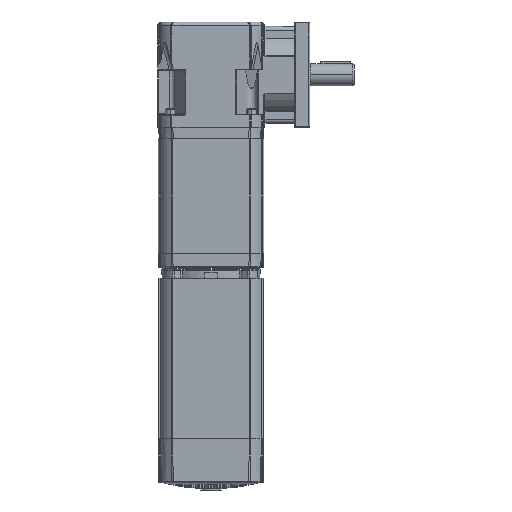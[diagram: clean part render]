
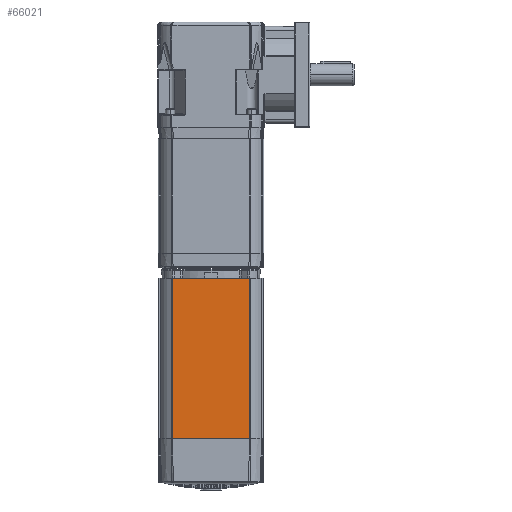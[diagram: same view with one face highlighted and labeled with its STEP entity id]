
A CAD part, front view. The second image highlights one B-rep face of the part: STEP entity #66021.
In plain terms, the highlighted planar face has unit normal (0, -1, 0).
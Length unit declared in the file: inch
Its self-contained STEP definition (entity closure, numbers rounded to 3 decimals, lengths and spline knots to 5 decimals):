
#1128 = VERTEX_POINT ( 'NONE', #55424 ) ;
#3404 = AXIS2_PLACEMENT_3D ( 'NONE', #76429, #42101, #5728 ) ;
#5047 = CARTESIAN_POINT ( 'NONE',  ( -1.305, -1.7765, -11.025 ) ) ;
#5728 = DIRECTION ( 'NONE',  ( 0., 0., -1. ) ) ;
#9107 = CARTESIAN_POINT ( 'NONE',  ( -1.305, -1.7765, -10.084 ) ) ;
#9770 = DIRECTION ( 'NONE',  ( -1., 0., 0. ) ) ;
#10675 = EDGE_CURVE ( 'NONE', #41895, #13286, #38244, .T. ) ;
#11033 = EDGE_CURVE ( 'NONE', #41895, #15584, #61417, .T. ) ;
#11418 = DIRECTION ( 'NONE',  ( 0., 0., -1. ) ) ;
#12001 = EDGE_CURVE ( 'NONE', #1128, #15584, #64573, .T. ) ;
#13205 = EDGE_CURVE ( 'NONE', #1128, #13286, #46708, .T. ) ;
#13286 = VERTEX_POINT ( 'NONE', #21435 ) ;
#15584 = VERTEX_POINT ( 'NONE', #9107 ) ;
#16425 = VECTOR ( 'NONE', #9770, 39.37008 ) ;
#20650 = CARTESIAN_POINT ( 'NONE',  ( 1.325, -1.7765, -4.689 ) ) ;
#21435 = CARTESIAN_POINT ( 'NONE',  ( 1.305, -1.7765, -4.689 ) ) ;
#27374 = CARTESIAN_POINT ( 'NONE',  ( 1.305, -1.7765, -11.025 ) ) ;
#28994 = FACE_OUTER_BOUND ( 'NONE', #70537, .T. ) ;
#33242 = ORIENTED_EDGE ( 'NONE', *, *, #13205, .F. ) ;
#36386 = VECTOR ( 'NONE', #67862, 39.37008 ) ;
#38244 = LINE ( 'NONE', #27374, #36386 ) ;
#41895 = VERTEX_POINT ( 'NONE', #54879 ) ;
#42101 = DIRECTION ( 'NONE',  ( 0., -1., 0. ) ) ;
#44462 = DIRECTION ( 'NONE',  ( 1., 0., 0. ) ) ;
#44932 = VECTOR ( 'NONE', #44462, 39.37008 ) ;
#45729 = CARTESIAN_POINT ( 'NONE',  ( 1.305, -1.7765, -10.084 ) ) ;
#46708 = LINE ( 'NONE', #20650, #44932 ) ;
#49340 = VECTOR ( 'NONE', #11418, 39.37008 ) ;
#54843 = ORIENTED_EDGE ( 'NONE', *, *, #11033, .F. ) ;
#54879 = CARTESIAN_POINT ( 'NONE',  ( 1.305, -1.7765, -10.084 ) ) ;
#55424 = CARTESIAN_POINT ( 'NONE',  ( -1.305, -1.7765, -4.689 ) ) ;
#59367 = ORIENTED_EDGE ( 'NONE', *, *, #10675, .T. ) ;
#61417 = LINE ( 'NONE', #45729, #16425 ) ;
#64573 = LINE ( 'NONE', #5047, #49340 ) ;
#66021 = ADVANCED_FACE ( 'NONE', ( #28994 ), #70472, .T. ) ;
#67492 = ORIENTED_EDGE ( 'NONE', *, *, #12001, .T. ) ;
#67862 = DIRECTION ( 'NONE',  ( 0., 0., 1. ) ) ;
#70472 = PLANE ( 'NONE',  #3404 ) ;
#70537 = EDGE_LOOP ( 'NONE', ( #54843, #59367, #33242, #67492 ) ) ;
#76429 = CARTESIAN_POINT ( 'NONE',  ( 1.325, -1.7765, -11.025 ) ) ;
